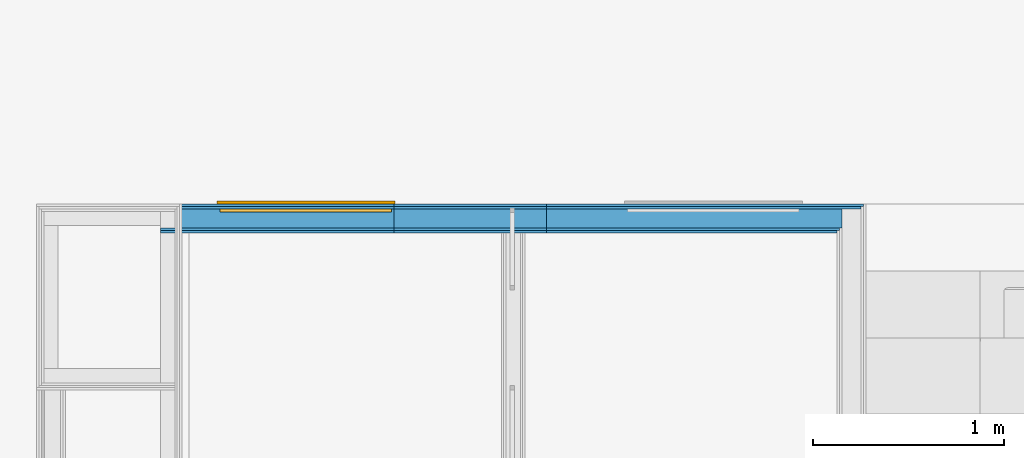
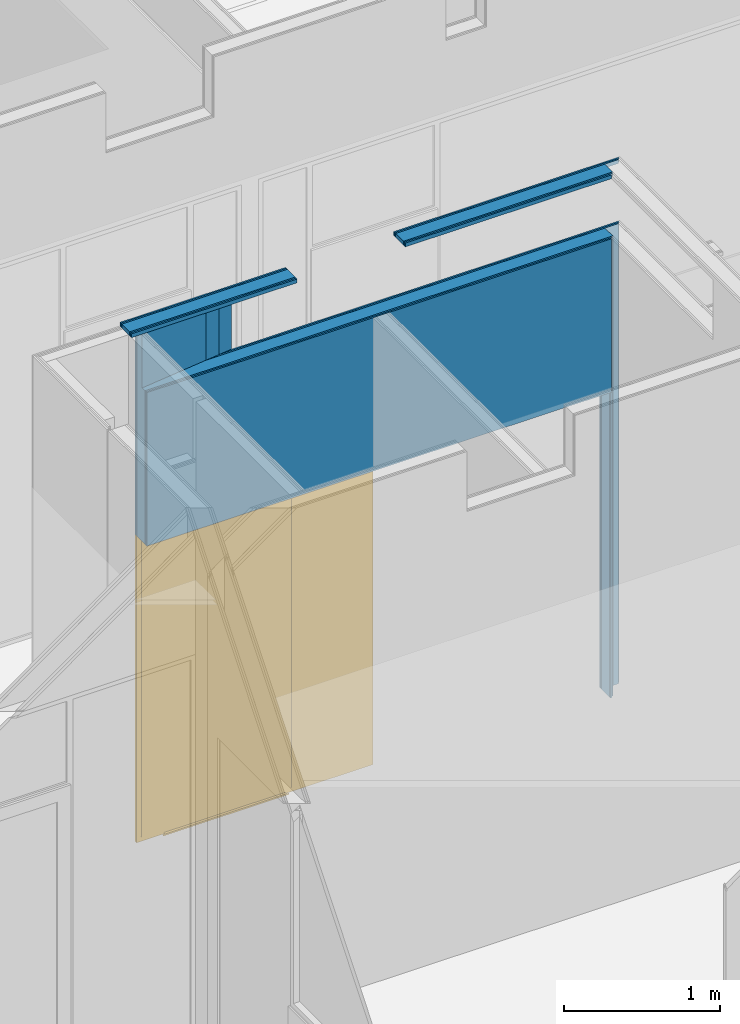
# One storey, part 45 of 109: 5 building element parts, 1 door, 2 openings, 1 element without a shape of its own.
"""IFC2X3 building model written with IfcOpenShell, lengths in millimetres."""

from ifc_helpers import new_model, entity, si_unit, converted_unit, derived_unit, money_unit, direction, frame, origin_with_axes, place, context, subcontext, project, spatial, open_shell, faceted_brep, surface_model, material, type_object, element, fill, aggregate, save


model = new_model("IFC2X3")

# Units and contexts
model_context = context("Model", 3, precision=0.01, world=origin_with_axes(), true_north=direction((0.0, 1.0)))
body_context = subcontext(model_context, "Body", "Model", "MODEL_VIEW")
ifc_project = project(units=[si_unit("LENGTHUNIT", "METRE", prefix="MILLI"), si_unit("AREAUNIT", "SQUARE_METRE"), si_unit("VOLUMEUNIT", "CUBIC_METRE"), converted_unit("PLANEANGLEUNIT", "DEGREE", entity("IfcPlaneAngleMeasure", 0.0174532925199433), si_unit("PLANEANGLEUNIT", "RADIAN"), dimensions=[0, 0, 0, 0, 0, 0, 0]), money_unit("EUR"), converted_unit("TIMEUNIT", "Year", entity("IfcTimeMeasure", 31557600.0), si_unit("TIMEUNIT", "SECOND"), dimensions=[0, 0, 1, 0, 0, 0, 0]), si_unit("MASSUNIT", "GRAM", prefix="KILO"), si_unit("THERMODYNAMICTEMPERATUREUNIT", "DEGREE_CELSIUS"), si_unit("LUMINOUSINTENSITYUNIT", "LUMEN"), si_unit("ENERGYUNIT", "JOULE", prefix="MEGA"), derived_unit("THERMALCONDUCTANCEUNIT", [(si_unit("POWERUNIT", "WATT"), 1), (si_unit("LENGTHUNIT", "METRE"), -1), (si_unit("THERMODYNAMICTEMPERATUREUNIT", "KELVIN"), -1)]), derived_unit("SPECIFICHEATCAPACITYUNIT", [(si_unit("ENERGYUNIT", "JOULE"), 1), (si_unit("MASSUNIT", "GRAM", prefix="KILO"), -1), (si_unit("THERMODYNAMICTEMPERATUREUNIT", "KELVIN"), -1)]), derived_unit("MASSDENSITYUNIT", [(si_unit("MASSUNIT", "GRAM", prefix="KILO"), 1), (si_unit("VOLUMEUNIT", "CUBIC_METRE"), -1)])], contexts=[model_context])

# Site, building, storey
site_placement = place(None, origin_with_axes())
site = spatial("IfcSite", under=ifc_project, at=site_placement, Name="<site naam>", CompositionType="ELEMENT")
building_placement = place(site_placement, origin_with_axes())
building = spatial("IfcBuilding", under=site, at=building_placement, Name="<Naam gebouw>", CompositionType="ELEMENT")
storey_placement = place(building_placement, origin_with_axes())
storey = spatial("IfcBuildingStorey", under=building, at=storey_placement, Name="00 Begane grond", CompositionType="ELEMENT", Elevation=0.0)

# Door
door_style = type_object("IfcDoorStyle", Name="D1 zl2 27", ConstructionType="NOTDEFINED", OperationType="USERDEFINED", ParameterTakesPrecedence=False, Sizeable=False)
wall_placement = place(storey_placement, frame((4000.000000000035, 16624.99999999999, 0.0), z_axis=(0.0, 0.0, 1.0), x_axis=(-1.0, 0.0, 0.0)))
opening_1_placement = place(wall_placement, frame((2638.705531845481, 0.0, 0.0), z_axis=(0.0, 0.0, 1.0), x_axis=(1.0, 0.0, 0.0)))
door_placement = place(opening_1_placement, frame((873.75, 0.0, 0.0), z_axis=(0.0, 0.0, 1.0), x_axis=(-1.0, 0.0, 0.0)))
door = element("IfcDoor", 1, at=door_placement, inside=storey, type_object=door_style, Name="22_BI-F-27_305", ObjectType="DOOR", OverallHeight=2400.0, OverallWidth=1747.5, context=body_context, shape_type="SurfaceModel", body=[
    faceted_brep([(1117.0, 35.00000000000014, 0.0), (1100.0, 35.00000000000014, 0.0), (1100.0, 35.00000000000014, 12.0), (1117.0, 35.00000000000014, 12.0), (182.9999999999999, 35.00000000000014, 0.0), (199.9999999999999, 35.00000000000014, 0.0), (199.9999999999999, 54.99999999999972, 0.0), (1100.0, 54.99999999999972, 0.0), (1100.0, 54.99999999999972, 12.0), (199.9999999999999, 54.99999999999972, 12.0), (199.9999999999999, 35.00000000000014, 12.0), (182.9999999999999, 35.00000000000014, 12.0)], [[[0, 1, 2, 3]], [[0, 4, 5, 6, 7, 1]], [[1, 7, 8, 2]], [[3, 2, 8, 9, 10, 11]], [[4, 0, 3, 11]], [[5, 4, 11, 10]], [[6, 5, 10, 9]], [[7, 6, 9, 8]]]),
    faceted_brep([(1747.5, 74.99999999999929, 0.0), (1747.5, 54.99999999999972, 0.0), (1714.5, 54.99999999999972, 0.0), (1714.5, 74.99999999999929, 0.0), (1747.5, 74.99999999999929, 2367.0), (1747.5, 54.99999999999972, 2367.0), (1714.5, 54.99999999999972, 2367.0), (1714.5, 54.99999999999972, 33.0), (1714.5, 74.99999999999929, 33.0), (1714.5, 74.99999999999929, 2367.0)], [[[0, 1, 2, 3]], [[4, 5, 1, 0]], [[1, 5, 6, 7, 2]], [[3, 2, 7, 8]], [[0, 3, 8, 9, 4]], [[9, 6, 5, 4]], [[8, 7, 6, 9]]]),
    faceted_brep([(1117.0, 54.99999999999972, 0.0), (1142.0, 54.99999999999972, 0.0), (1142.0, 54.99999999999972, 32.99999999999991), (1142.0, 54.99999999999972, 2367.0), (1117.0, 54.99999999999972, 2367.0), (1117.0, 74.99999999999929, 0.0), (1142.0, 74.99999999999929, 0.0), (1142.0, 74.99999999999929, 32.99999999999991), (1142.0, 74.99999999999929, 2367.0), (1117.0, 74.99999999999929, 2367.0)], [[[0, 1, 2, 3, 4]], [[5, 6, 1, 0]], [[6, 7, 2, 1]], [[7, 8, 3, 2]], [[4, 3, 8, 9]], [[9, 5, 0, 4]], [[9, 8, 7, 6, 5]]]),
    faceted_brep([(1714.5, 74.99999999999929, 33.0), (1714.5, 54.99999999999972, 33.0), (1714.5, 54.99999999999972, 0.0), (1714.5, 74.99999999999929, 0.0), (1142.0, 74.99999999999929, 33.0), (1142.0, 54.99999999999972, 33.0), (1142.0, 54.99999999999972, 0.0), (1142.0, 74.99999999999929, 0.0)], [[[0, 1, 2, 3]], [[4, 5, 1, 0]], [[1, 5, 6, 2]], [[3, 2, 6, 7]], [[0, 3, 7, 4]], [[7, 6, 5, 4]]]),
    faceted_brep([(0.0, 74.99999999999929, 0.0), (0.0, 54.99999999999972, 0.0), (0.0, 54.99999999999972, 2367.0), (0.0, 74.99999999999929, 2367.0), (33.00000000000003, 74.99999999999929, 0.0), (33.00000000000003, 54.99999999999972, 0.0), (33.00000000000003, 54.99999999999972, 33.0), (33.00000000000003, 54.99999999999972, 2367.0), (33.00000000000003, 74.99999999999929, 2367.0), (33.00000000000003, 74.99999999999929, 33.0)], [[[0, 1, 2, 3]], [[4, 5, 1, 0]], [[1, 5, 6, 7, 2]], [[3, 2, 7, 8]], [[0, 3, 8, 9, 4]], [[9, 6, 5, 4]], [[8, 7, 6, 9]]]),
    faceted_brep([(182.9999999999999, 74.99999999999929, 2367.0), (157.9999999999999, 74.99999999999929, 2367.0), (157.9999999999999, 54.99999999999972, 2367.0), (182.9999999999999, 54.99999999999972, 2367.0), (182.9999999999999, 74.99999999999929, 0.0), (157.9999999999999, 74.99999999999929, 0.0), (157.9999999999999, 74.99999999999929, 32.99999999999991), (157.9999999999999, 54.99999999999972, 32.99999999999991), (157.9999999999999, 54.99999999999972, 0.0), (182.9999999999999, 54.99999999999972, 0.0)], [[[0, 1, 2, 3]], [[4, 5, 6, 1, 0]], [[1, 6, 7, 2]], [[3, 2, 7, 8, 9]], [[9, 4, 0, 3]], [[9, 8, 5, 4]], [[6, 5, 8, 7]]]),
    faceted_brep([(157.9999999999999, 74.99999999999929, 33.0), (157.9999999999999, 54.99999999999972, 33.0), (157.9999999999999, 54.99999999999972, 0.0), (157.9999999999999, 74.99999999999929, 0.0), (33.00000000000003, 74.99999999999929, 33.0), (33.00000000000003, 54.99999999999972, 33.0), (33.00000000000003, 54.99999999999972, 0.0), (33.00000000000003, 74.99999999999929, 0.0)], [[[0, 1, 2, 3]], [[4, 5, 1, 0]], [[1, 5, 6, 2]], [[3, 2, 6, 7]], [[0, 3, 7, 4]], [[7, 6, 5, 4]]]),
    faceted_brep([(1117.0, 54.99999999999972, 2367.0), (1142.0, 54.99999999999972, 2367.0), (1714.5, 54.99999999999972, 2367.0), (1747.5, 54.99999999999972, 2367.0), (1747.5, 54.99999999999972, 2400.0), (0.0, 54.99999999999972, 2400.0), (0.0, 54.99999999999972, 2367.0), (33.00000000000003, 54.99999999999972, 2367.0), (157.9999999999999, 54.99999999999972, 2367.0), (182.9999999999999, 54.99999999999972, 2367.0), (182.9999999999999, 54.99999999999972, 2384.0), (1117.0, 54.99999999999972, 2384.0), (1117.0, 74.99999999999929, 2367.0), (1142.0, 74.99999999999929, 2367.0), (1714.5, 74.99999999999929, 2367.0), (1747.5, 74.99999999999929, 2367.0), (1747.5, 74.99999999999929, 2400.0), (0.0, 74.99999999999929, 2400.0), (0.0, 74.99999999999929, 2367.0), (33.00000000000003, 74.99999999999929, 2367.0), (157.9999999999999, 74.99999999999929, 2367.0), (182.9999999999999, 74.99999999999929, 2367.0), (182.9999999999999, 74.99999999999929, 2384.0), (1117.0, 74.99999999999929, 2384.0)], [[[0, 1, 2, 3, 4, 5, 6, 7, 8, 9, 10, 11]], [[12, 13, 1, 0]], [[13, 14, 2, 1]], [[14, 15, 3, 2]], [[15, 16, 4, 3]], [[16, 17, 5, 4]], [[17, 18, 6, 5]], [[18, 19, 7, 6]], [[9, 8, 7, 19, 20, 21]], [[9, 21, 22, 10]], [[10, 22, 23, 11]], [[11, 23, 12, 0]], [[23, 22, 21, 20, 19, 18, 17, 16, 15, 14, 13, 12]]]),
    faceted_brep([(182.9999999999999, 92.99999999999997, 0.0), (1117.0, 92.99999999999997, 0.0), (1117.0, 53.00000000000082, 0.0), (182.9999999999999, 53.00000000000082, 0.0), (182.9999999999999, 92.99999999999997, 2384.0), (1117.0, 92.99999999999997, 2384.0), (1117.0, 52.99999999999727, 2384.0), (182.9999999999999, 53.00000000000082, 2384.0)], [[[0, 1, 2, 3]], [[0, 4, 5, 1]], [[1, 5, 6, 2]], [[3, 2, 6, 7]], [[4, 0, 3, 7]], [[5, 4, 7, 6]]]),
    surface_model("IfcShellBasedSurfaceModel", [(1714.5, 48.99999999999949, 33.0), (1714.5, 48.99999999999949, 2367.0), (1142.0, 48.99999999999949, 2367.0), (1142.0, 48.99999999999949, 33.0)], [open_shell([[[0, 1, 2, 3]]])]),
    surface_model("IfcShellBasedSurfaceModel", [(1714.5, 60.99999999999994, 33.0), (1142.0, 60.99999999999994, 33.0), (1142.0, 60.99999999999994, 2367.0), (1714.5, 60.99999999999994, 2367.0)], [open_shell([[[0, 1, 2, 3]]])]),
    surface_model("IfcShellBasedSurfaceModel", [(157.9999999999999, 48.99999999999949, 33.0), (157.9999999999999, 48.99999999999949, 2367.0), (32.99999999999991, 48.99999999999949, 2367.0), (32.99999999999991, 48.99999999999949, 33.0)], [open_shell([[[0, 1, 2, 3]]])]),
    surface_model("IfcShellBasedSurfaceModel", [(157.9999999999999, 60.99999999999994, 33.0), (32.99999999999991, 60.99999999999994, 33.0), (32.99999999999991, 60.99999999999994, 2367.0), (157.9999999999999, 60.99999999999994, 2367.0)], [open_shell([[[0, 1, 2, 3]]])]),
])

# Wall, opening
wall_type = type_object("IfcWallType", Name="MS-01 GF 150 ECO DGS/2.100.2.A 150", PredefinedType="NOTDEFINED")
wall = element("IfcWall", 2, at=wall_placement, inside=storey, type_object=wall_type, Name="22_Binnenwand_MS-01")
opening_1 = element("IfcOpeningElement", 3, at=opening_1_placement, cuts=wall, Name="22_BI-F-27_305", context=body_context, shape_type="Brep", body=[
    faceted_brep([(873.75, 76.00000000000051, 2400.0), (873.75, 76.00000000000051, 0.0), (-873.7500000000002, 76.00000000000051, 0.0), (-873.7500000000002, 76.00000000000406, 2400.0), (873.75, -76.00000000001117, 2400.0), (873.75, -76.00000000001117, 0.0), (-873.7500000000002, -76.00000000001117, 0.0), (-873.7500000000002, -76.00000000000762, 2400.0)], [[[0, 1, 2, 3]], [[4, 5, 1, 0]], [[5, 6, 2, 1]], [[6, 7, 3, 2]], [[7, 4, 0, 3]], [[6, 5, 4, 7]]]),
])

fill(opening_1, door)

# Opening
opening_2_placement = place(wall_placement, frame((928.3527659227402, 0.0, 0.0), z_axis=(0.0, 0.0, 1.0), x_axis=(1.0, 0.0, 0.0)))
element("IfcOpeningElement", 4, at=opening_2_placement, cuts=wall, Name="22_BI-F-27 sp_305", context=body_context, shape_type="Brep", body=[
    faceted_brep([(853.3527659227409, 76.00000000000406, 2400.0), (853.3527659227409, 76.00000000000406, 0.0), (-853.3527659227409, 76.00000000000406, 0.0), (-853.3527659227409, 76.00000000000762, 2400.0), (853.3527659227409, -76.00000000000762, 2400.0), (853.3527659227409, -76.00000000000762, 0.0), (-853.3527659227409, -76.00000000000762, 0.0), (-853.3527659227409, -76.00000000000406, 2400.0)], [[[0, 1, 2, 3]], [[4, 5, 1, 0]], [[5, 6, 2, 1]], [[6, 7, 3, 2]], [[7, 4, 0, 3]], [[6, 5, 4, 7]]]),
])

# Building element part
ifc_material_1 = material(Name="gipsplaat")
building_element_part_1_placement = place(wall_placement, origin_with_axes())
building_element_part_1 = element("IfcBuildingElementPart", 5, at=building_element_part_1_placement, material=ifc_material_1, Name="gipsplaat", context=body_context, shape_type="Brep", body=[
    faceted_brep([(3512.455531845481, 50.00000000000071, 0.0), (3512.455531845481, 50.00000000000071, 3600.0), (2399.999999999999, 50.00000000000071, 3600.0), (1600.000000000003, 50.00000000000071, 3600.0), (62.49999999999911, 50.00000000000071, 3600.0), (62.49999999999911, 50.00000000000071, 0.0), (74.99999999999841, 50.00000000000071, 0.0), (74.99999999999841, 50.00000000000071, 3.000000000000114), (1712.499996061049, 50.00000000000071, 3.000000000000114), (1712.499996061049, 50.00000000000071, 0.0), (1837.500018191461, 50.00000000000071, 0.0), (1837.500018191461, 50.00000000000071, 3.000000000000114), (3474.955531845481, 50.00000000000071, 3.000000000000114), (3474.955531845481, 50.00000000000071, 0.0), (3512.455531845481, 62.5, 0.0), (3512.455531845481, 62.5, 3600.0), (2399.999999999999, 62.5, 3600.0), (1600.000000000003, 62.5, 3600.0), (62.49999999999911, 62.5, 3600.0), (62.49999999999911, 62.5, 0.0), (74.99999999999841, 62.5, 0.0), (74.99999999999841, 62.5, 3.000000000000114), (1712.499996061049, 62.5, 3.000000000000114), (1712.499996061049, 62.5, 0.0), (1837.500018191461, 62.5, 0.0), (1837.500018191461, 62.5, 3.000000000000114), (3474.955531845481, 62.5, 3.000000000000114), (3474.955531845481, 62.5, 0.0)], [[[0, 1, 2, 3, 4, 5, 6, 7, 8, 9, 10, 11, 12, 13]], [[14, 15, 1, 0]], [[15, 16, 2, 1]], [[3, 2, 16, 17]], [[3, 17, 18, 4]], [[19, 5, 4, 18]], [[20, 6, 5, 19]], [[7, 6, 20, 21]], [[8, 7, 21, 22]], [[9, 8, 22, 23]], [[9, 23, 24, 10]], [[11, 10, 24, 25]], [[12, 11, 25, 26]], [[13, 12, 26, 27]], [[13, 27, 14, 0]], [[17, 16, 15, 14, 27, 26, 25, 24, 23, 22, 21, 20, 19, 18]]]),
    faceted_brep([(2400.000000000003, 62.5, 4100.000044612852), (2399.999999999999, 62.5, 4070.0), (2399.999999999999, 50.00000000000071, 4070.0), (2400.000000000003, 50.00000000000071, 4100.000044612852), (3624.955531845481, 62.5, 4070.0), (3512.455531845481, 62.5, 4070.0), (3624.955531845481, 62.5, 4100.000044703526), (3512.455531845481, 50.00000000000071, 4070.0), (3624.955531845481, 50.00000000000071, 4070.0), (3624.955531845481, 50.00000000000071, 4100.000044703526)], [[[0, 1, 2, 3]], [[4, 5, 1, 0, 6]], [[5, 7, 2, 1]], [[3, 2, 7, 8, 9]], [[3, 9, 6, 0]], [[8, 7, 5, 4]], [[9, 8, 4, 6]]]),
    faceted_brep([(62.49999999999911, 62.5, 4100.000044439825), (62.49999999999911, 62.5, 4070.0), (62.49999999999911, 50.00000000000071, 4070.0), (62.49999999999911, 50.00000000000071, 4100.000044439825), (1600.000000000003, 62.5, 4100.000044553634), (1600.000000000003, 62.5, 4070.0), (1600.000000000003, 50.00000000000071, 4070.0), (1600.000000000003, 50.00000000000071, 4100.000044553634)], [[[0, 1, 2, 3]], [[4, 5, 1, 0]], [[5, 6, 2, 1]], [[3, 2, 6, 7]], [[0, 3, 7, 4]], [[7, 6, 5, 4]]]),
])

building_element_part_2_placement = place(wall_placement, origin_with_axes())
building_element_part_2 = element("IfcBuildingElementPart", 6, at=building_element_part_2_placement, material=ifc_material_1, Name="gipsplaat", context=body_context, shape_type="Brep", body=[
    faceted_brep([(3474.955531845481, 62.5, 0.0), (3512.455531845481, 62.5, 0.0), (3512.455531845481, 62.5, 3600.0), (2399.999999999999, 62.5, 3600.0), (1600.000000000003, 62.5, 3600.0), (74.99999999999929, 62.5, 3600.0), (74.99999999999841, 62.5, 3.000000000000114), (1712.49999606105, 62.5, 3.000000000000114), (1712.49999606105, 62.5, 0.0), (1837.500018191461, 62.5, 0.0), (1837.500018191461, 62.5, 3.000000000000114), (3474.955531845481, 62.5, 3.000000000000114), (3474.955531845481, 74.99999999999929, 0.0), (3512.455531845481, 74.99999999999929, 0.0), (3512.455531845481, 74.99999999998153, 3600.0), (2399.999999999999, 74.99999999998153, 3600.0), (1600.000000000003, 74.99999999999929, 3600.0), (74.99999999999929, 74.99999999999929, 3600.0), (74.99999999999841, 74.99999999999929, 3.000000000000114), (1712.49999606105, 74.99999999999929, 3.000000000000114), (1712.49999606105, 74.99999999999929, 0.0), (1837.500018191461, 74.99999999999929, 0.0), (1837.500018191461, 74.99999999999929, 3.000000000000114), (3474.955531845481, 74.99999999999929, 3.000000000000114)], [[[0, 1, 2, 3, 4, 5, 6, 7, 8, 9, 10, 11]], [[1, 0, 12, 13]], [[1, 13, 14, 2]], [[2, 14, 15, 3]], [[16, 4, 3, 15]], [[5, 4, 16, 17]], [[17, 18, 6, 5]], [[19, 7, 6, 18]], [[20, 8, 7, 19]], [[9, 8, 20, 21]], [[22, 10, 9, 21]], [[23, 11, 10, 22]], [[12, 0, 11, 23]], [[17, 16, 15, 14, 13, 12, 23, 22, 21, 20, 19, 18]]]),
    faceted_brep([(2400.000000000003, 62.5, 4100.000044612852), (2400.000000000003, 74.99999999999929, 4100.000044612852), (2399.999999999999, 74.99999999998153, 4070.0), (2399.999999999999, 62.5, 4070.0), (3624.955531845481, 62.5, 4100.000044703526), (3624.955531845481, 74.99999999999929, 4100.000044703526), (3624.955531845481, 74.99999999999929, 4070.0), (3512.455531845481, 74.99999999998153, 4070.0), (3512.455531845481, 62.5, 4070.0), (3624.955531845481, 62.5, 4070.0)], [[[0, 1, 2, 3]], [[1, 0, 4, 5]], [[5, 6, 7, 2, 1]], [[2, 7, 8, 3]], [[4, 0, 3, 8, 9]], [[5, 4, 9, 6]], [[6, 9, 8, 7]]]),
    faceted_brep([(74.99999999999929, 74.99999999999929, 4100.00004444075), (74.99999999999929, 74.99999999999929, 4070.0), (74.99999999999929, 62.5, 4070.0), (74.99999999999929, 62.5, 4100.00004444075), (1600.000000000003, 74.99999999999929, 4100.000044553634), (1600.000000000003, 74.99999999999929, 4070.0), (1600.000000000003, 62.5, 4070.0), (1600.000000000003, 62.5, 4100.000044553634)], [[[0, 1, 2, 3]], [[4, 5, 1, 0]], [[5, 6, 2, 1]], [[3, 2, 6, 7]], [[0, 3, 7, 4]], [[7, 6, 5, 4]]]),
])

ifc_material_2 = material(Name="isolatie_steenwol LSW")
building_element_part_3_placement = place(wall_placement, origin_with_axes())
building_element_part_3 = element("IfcBuildingElementPart", 7, at=building_element_part_3_placement, material=ifc_material_2, Name="isolatie_steenwol LSW", context=body_context, shape_type="Brep", body=[
    faceted_brep([(2400.000000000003, 50.00000000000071, 4100.000044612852), (2399.999999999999, 50.00000000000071, 4070.0), (2399.999999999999, -50.00000000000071, 4070.0), (2400.000000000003, -50.00000000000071, 4100.000044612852), (3624.955531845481, 50.00000000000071, 4070.0), (3512.455531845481, 50.00000000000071, 4070.0), (3624.955531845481, 50.00000000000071, 4100.000044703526), (3512.455531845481, 14.05694148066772, 4070.0), (3000.000000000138, -50.00000000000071, 4070.0), (3000.000000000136, -50.00000000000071, 3600.0), (2399.999999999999, -50.00000000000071, 3600.0), (1600.000000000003, -50.00000000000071, 3600.0), (49.99999999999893, -50.00000000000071, 3600.0), (49.99999999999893, -50.00000000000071, 0.0), (74.99999999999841, -50.00000000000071, 0.0), (74.99999999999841, -50.00000000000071, 3.000000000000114), (1712.499996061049, -50.00000000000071, 3.000000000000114), (1712.499996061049, -50.00000000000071, 0.0), (1837.500018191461, -50.00000000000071, 0.0), (1837.500018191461, -50.00000000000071, 3.000000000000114), (3474.955531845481, -50.00000000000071, 3.000000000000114), (3474.955531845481, -50.00000000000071, 0.0), (3512.455531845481, -50.00000000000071, 0.0), (3512.455531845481, -50.00000000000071, 4070.0), (3624.955531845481, -50.00000000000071, 4070.0), (3624.955531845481, -50.00000000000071, 4100.000044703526), (3512.455531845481, 14.05694148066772, 3600.0), (3512.455531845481, 50.00000000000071, 3600.0), (2399.999999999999, 50.00000000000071, 3600.0), (1600.000000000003, 50.00000000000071, 3600.0), (49.99999999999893, 50.00000000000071, 3600.0), (49.99999999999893, 50.00000000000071, 0.0), (74.99999999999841, 50.00000000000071, 0.0), (74.99999999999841, 50.00000000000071, 3.000000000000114), (1712.499996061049, 50.00000000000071, 3.000000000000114), (1712.499996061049, 50.00000000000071, 0.0), (1837.500018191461, 50.00000000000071, 0.0), (1837.500018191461, 50.00000000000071, 3.000000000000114), (3474.955531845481, 50.00000000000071, 3.000000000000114), (3474.955531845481, 50.00000000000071, 0.0), (3512.455531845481, 50.00000000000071, 0.0)], [[[0, 1, 2, 3]], [[4, 5, 1, 0, 6]], [[7, 8, 2, 1, 5]], [[8, 9, 10, 11, 12, 13, 14, 15, 16, 17, 18, 19, 20, 21, 22, 23, 24, 25, 3, 2]], [[3, 25, 6, 0]], [[23, 7, 5, 4, 24]], [[25, 24, 4, 6]], [[26, 9, 8, 7]], [[27, 28, 10, 9, 26]], [[11, 10, 28, 29]], [[11, 29, 30, 12]], [[31, 13, 12, 30]], [[32, 14, 13, 31]], [[15, 14, 32, 33]], [[16, 15, 33, 34]], [[17, 16, 34, 35]], [[17, 35, 36, 18]], [[19, 18, 36, 37]], [[20, 19, 37, 38]], [[21, 20, 38, 39]], [[21, 39, 40, 22]], [[27, 26, 7, 23, 22, 40]], [[29, 28, 27, 40, 39, 38, 37, 36, 35, 34, 33, 32, 31, 30]]]),
    faceted_brep([(49.99999999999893, 50.00000000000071, 4100.0000444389), (49.99999999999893, 50.00000000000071, 4070.0), (49.99999999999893, -50.00000000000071, 4070.0), (49.99999999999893, -50.00000000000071, 4100.0000444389), (1600.000000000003, 50.00000000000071, 4100.000044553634), (1600.000000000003, 50.00000000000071, 4070.0), (1600.000000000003, -50.00000000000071, 4070.0), (1600.000000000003, -50.00000000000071, 4100.000044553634)], [[[0, 1, 2, 3]], [[4, 5, 1, 0]], [[5, 6, 2, 1]], [[3, 2, 6, 7]], [[0, 3, 7, 4]], [[7, 6, 5, 4]]]),
])

building_element_part_4_placement = place(wall_placement, origin_with_axes())
building_element_part_4 = element("IfcBuildingElementPart", 8, at=building_element_part_4_placement, material=ifc_material_1, Name="gipsplaat", context=body_context, shape_type="Brep", body=[
    faceted_brep([(2400.000000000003, -62.5, 4100.000044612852), (2399.999999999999, -62.5, 4070.0), (2399.999999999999, -75.00000121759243, 4070.0), (2400.000000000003, -74.99999999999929, 4100.000044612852), (2900.000000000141, -62.5, 3600.0), (2900.000000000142, -62.5, 4070.0), (3624.955531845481, -62.5, 4100.000044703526), (3624.955531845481, -62.5, 4070.0), (3512.455531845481, -62.5, 4070.0), (3512.455531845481, -62.5, 0.0), (3474.955531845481, -62.5, 0.0), (3474.955531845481, -62.5, 3.000000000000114), (1837.500018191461, -62.5, 3.000000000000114), (1837.500018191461, -62.5, 0.0), (1712.499996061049, -62.5, 0.0), (1712.499996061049, -62.5, 3.000000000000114), (74.99999999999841, -62.5, 3.000000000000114), (74.99999999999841, -62.5, 0.0), (-62.50000000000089, -62.5, 0.0), (-62.50000000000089, -62.5, 3600.0), (1600.000000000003, -62.5, 3600.0), (2399.999999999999, -62.5, 3600.0), (2799.999837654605, -75.0000202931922, 4070.0), (2799.999837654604, -75.0000202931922, 3600.0), (2399.999999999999, -75.0000202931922, 3600.0), (1600.000000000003, -75.0000202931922, 3600.0), (-62.50000000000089, -74.99999999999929, 3600.0), (-62.50000000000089, -74.99999999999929, 0.0), (74.99999999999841, -75.0000202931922, 0.0), (74.99999999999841, -75.0000202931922, 3.000000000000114), (1712.499996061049, -75.0000202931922, 3.000000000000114), (1712.499996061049, -75.0000202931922, 0.0), (1837.500018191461, -75.0000202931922, 0.0), (1837.500018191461, -75.0000202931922, 3.000000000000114), (3474.955531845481, -75.0000202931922, 3.000000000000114), (3474.955531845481, -75.0000202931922, 0.0), (3512.455531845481, -74.99999394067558, 0.0), (3512.455531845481, -74.99999394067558, 4070.0), (3624.955531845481, -74.99997576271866, 4070.0), (3624.955531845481, -74.99999999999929, 4100.000044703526)], [[[0, 1, 2, 3]], [[4, 5, 1, 0, 6, 7, 8, 9, 10, 11, 12, 13, 14, 15, 16, 17, 18, 19, 20, 21]], [[5, 22, 2, 1]], [[22, 23, 24, 25, 26, 27, 28, 29, 30, 31, 32, 33, 34, 35, 36, 37, 38, 39, 3, 2]], [[3, 39, 6, 0]], [[4, 23, 22, 5]], [[39, 38, 7, 6]], [[38, 37, 8, 7]], [[8, 37, 36, 9]], [[35, 10, 9, 36]], [[35, 34, 11, 10]], [[34, 33, 12, 11]], [[33, 32, 13, 12]], [[31, 14, 13, 32]], [[31, 30, 15, 14]], [[30, 29, 16, 15]], [[29, 28, 17, 16]], [[17, 28, 27, 18]], [[18, 27, 26, 19]], [[25, 20, 19, 26]], [[25, 24, 21, 20]], [[4, 21, 24, 23]]]),
    faceted_brep([(-62.50000000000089, -62.5, 4100.000044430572), (-62.50000000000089, -62.5, 4070.0), (-62.50000000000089, -74.99999999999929, 4070.0), (-62.50000000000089, -74.99999999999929, 4100.000044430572), (1600.000000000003, -62.5, 4100.000044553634), (1600.000000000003, -62.5, 4070.0), (1600.000000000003, -75.00000121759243, 4070.0), (1600.000000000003, -74.99999999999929, 4100.000044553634)], [[[0, 1, 2, 3]], [[4, 5, 1, 0]], [[5, 6, 2, 1]], [[3, 2, 6, 7]], [[0, 3, 7, 4]], [[7, 6, 5, 4]]]),
])

building_element_part_5_placement = place(wall_placement, origin_with_axes())
building_element_part_5 = element("IfcBuildingElementPart", 9, at=building_element_part_5_placement, material=ifc_material_1, Name="gipsplaat", context=body_context, shape_type="Brep", body=[
    faceted_brep([(2400.000000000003, -50.00000000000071, 4100.000044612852), (2399.999999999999, -50.00000000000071, 4070.0), (2399.999999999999, -62.5, 4070.0), (2400.000000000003, -62.5, 4100.000044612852), (3000.000000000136, -50.00000000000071, 3600.0), (3000.000000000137, -50.00000000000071, 4070.0), (3624.955531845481, -50.00000000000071, 4100.000044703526), (3624.955531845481, -50.00000000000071, 4070.0), (3512.455531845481, -50.00000000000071, 4070.0), (3512.455531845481, -50.00000000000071, 0.0), (3474.955531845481, -50.00000000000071, 0.0), (3474.955531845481, -50.00000000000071, 3.000000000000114), (1837.500018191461, -50.00000000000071, 3.000000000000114), (1837.500018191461, -50.00000000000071, 0.0), (1712.499996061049, -50.00000000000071, 0.0), (1712.499996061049, -50.00000000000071, 3.000000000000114), (74.99999999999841, -50.00000000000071, 3.000000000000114), (74.99999999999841, -50.00000000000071, 0.0), (-50.00000000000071, -50.00000000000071, 0.0), (-50.00000000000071, -50.00000000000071, 3600.0), (1600.000000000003, -50.00000000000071, 3600.0), (2399.999999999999, -50.00000000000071, 3600.0), (2900.000000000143, -62.5, 4070.0), (2900.000000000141, -62.5, 3600.0), (2399.999999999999, -62.5, 3600.0), (1600.000000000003, -62.5, 3600.0), (-50.00000000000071, -62.5, 3600.0), (-50.00000000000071, -62.5, 0.0), (74.99999999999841, -62.5, 0.0), (74.99999999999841, -62.5, 3.000000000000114), (1712.499996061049, -62.5, 3.000000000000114), (1712.499996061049, -62.5, 0.0), (1837.500018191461, -62.5, 0.0), (1837.500018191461, -62.5, 3.000000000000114), (3474.955531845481, -62.5, 3.000000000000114), (3474.955531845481, -62.5, 0.0), (3512.455531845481, -62.5, 0.0), (3512.455531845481, -62.5, 4070.0), (3624.955531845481, -62.5, 4070.0), (3624.955531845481, -62.5, 4100.000044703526)], [[[0, 1, 2, 3]], [[4, 5, 1, 0, 6, 7, 8, 9, 10, 11, 12, 13, 14, 15, 16, 17, 18, 19, 20, 21]], [[5, 22, 2, 1]], [[22, 23, 24, 25, 26, 27, 28, 29, 30, 31, 32, 33, 34, 35, 36, 37, 38, 39, 3, 2]], [[3, 39, 6, 0]], [[4, 23, 22, 5]], [[39, 38, 7, 6]], [[38, 37, 8, 7]], [[8, 37, 36, 9]], [[35, 10, 9, 36]], [[35, 34, 11, 10]], [[34, 33, 12, 11]], [[33, 32, 13, 12]], [[31, 14, 13, 32]], [[31, 30, 15, 14]], [[30, 29, 16, 15]], [[29, 28, 17, 16]], [[17, 28, 27, 18]], [[18, 27, 26, 19]], [[25, 20, 19, 26]], [[25, 24, 21, 20]], [[4, 21, 24, 23]]]),
    faceted_brep([(-50.00000000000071, -50.00000000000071, 4100.000044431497), (-50.00000000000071, -50.00000000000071, 4070.0), (-50.00000000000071, -62.5, 4070.0), (-50.00000000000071, -62.5, 4100.000044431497), (1600.000000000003, -50.00000000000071, 4100.000044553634), (1600.000000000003, -50.00000000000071, 4070.0), (1600.000000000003, -62.5, 4070.0), (1600.000000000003, -62.5, 4100.000044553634)], [[[0, 1, 2, 3]], [[4, 5, 1, 0]], [[5, 6, 2, 1]], [[3, 2, 6, 7]], [[0, 3, 7, 4]], [[7, 6, 5, 4]]]),
])

aggregate(wall, [building_element_part_1, building_element_part_2, building_element_part_3, building_element_part_4, building_element_part_5])

save(model, "model.ifc")
